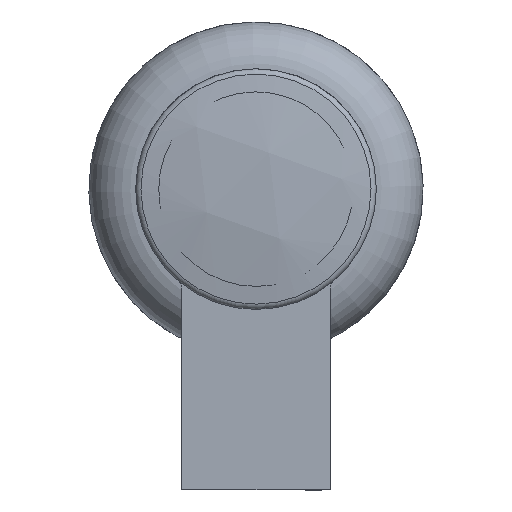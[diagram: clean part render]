
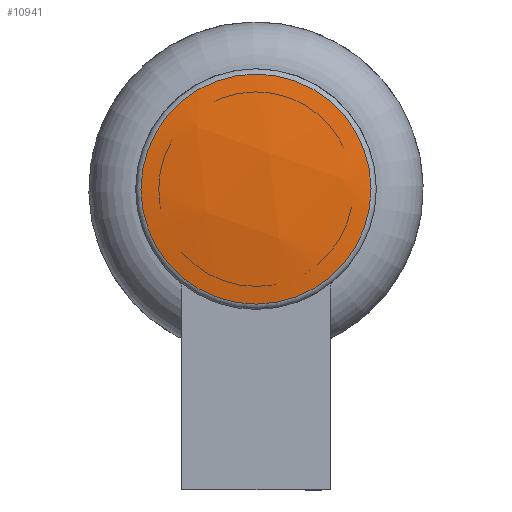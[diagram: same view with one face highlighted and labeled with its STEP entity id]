
A CAD part, front view. The second image highlights one B-rep face of the part: STEP entity #10941.
In plain terms, the highlighted spherical face has radius 168.893 mm.
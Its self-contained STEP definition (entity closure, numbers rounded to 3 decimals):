
#211=SPHERICAL_SURFACE('',#12260,168.893);
#1097=FACE_OUTER_BOUND('',#1783,.T.);
#1783=EDGE_LOOP('',(#7990));
#4107=CIRCLE('',#12256,34.407);
#4873=VERTEX_POINT('',#17764);
#6037=EDGE_CURVE('',#4873,#4873,#4107,.T.);
#7990=ORIENTED_EDGE('',*,*,#6037,.F.);
#10941=ADVANCED_FACE('',(#1097),#211,.T.);
#12256=AXIS2_PLACEMENT_3D('',#17766,#14213,#14214);
#12260=AXIS2_PLACEMENT_3D('',#17772,#14222,#14223);
#14213=DIRECTION('center_axis',(1.,0.,0.));
#14214=DIRECTION('ref_axis',(0.,0.,-1.));
#14222=DIRECTION('center_axis',(0.,0.,1.));
#14223=DIRECTION('ref_axis',(-1.,-0.001,0.));
#17764=CARTESIAN_POINT('',(3.542,0.,34.407));
#17766=CARTESIAN_POINT('Origin',(3.542,0.,
0.));
#17772=CARTESIAN_POINT('Origin',(168.893,0.,0.));
